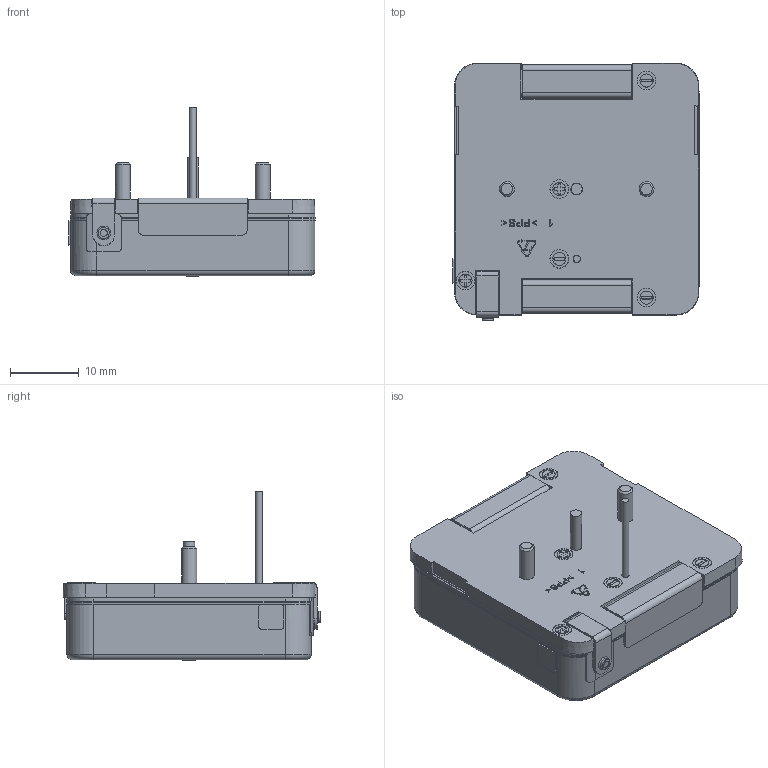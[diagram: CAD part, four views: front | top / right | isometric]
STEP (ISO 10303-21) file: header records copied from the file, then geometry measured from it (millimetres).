
FILE_DESCRIPTION(/* description */ (''),/* implementation_level */ '2;1');
FILE_NAME(/* name */ 'EP1-B model for data share 04-April-19.stp',/* time_stamp */ '2024-06-03T15:27:23+03:00',/* author */ ('EPetuhov'),/* organization */ (''),/* preprocessor_version */ 'ST-DEVELOPER v20',/* originating_system */ 'Autodesk Inventor 2024',/* authorisation */ '');
FILE_SCHEMA (('AUTOMOTIVE_DESIGN { 1 0 10303 214 3 1 1 }'));
Length unit declared in the file: millimetre
Products named in the file (1): EP1-B model for data share 04-April-19
Bounding box: 35.85 x 37.52 x 24.7 mm (x, y, z)
Volume: 14052.9 mm3; surface area: 4672.2 mm2
Topology: 1 solids, 2 shells, 1411 faces, 3787 edges, 2501 vertices
Faces by surface type: plane 820, bspline 477, cylinder 69, cone 37, torus 8
Full cylindrical faces by diameter (mm): 1.016 x3, 1.524 x1, 1.6 x1, 1.626 x2, 1.824 x2, 1.854 x2, 2.184 x2
Entity records: 47935 total; most frequent: CARTESIAN_POINT 14213, ORIENTED_EDGE 7572, DIRECTION 4919, EDGE_CURVE 3786, LINE 2603, VECTOR 2603, VERTEX_POINT 2501, EDGE_LOOP 1555
